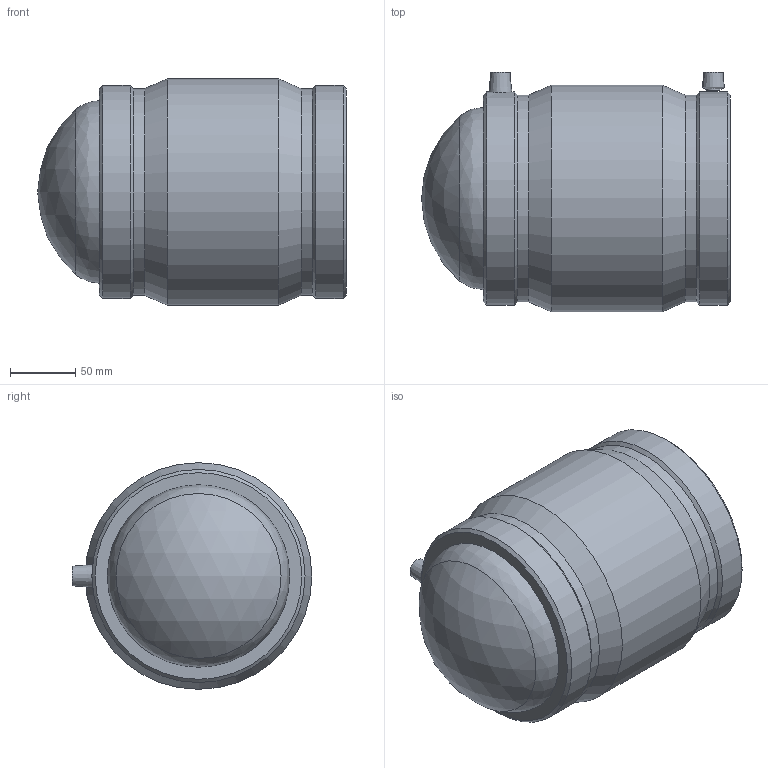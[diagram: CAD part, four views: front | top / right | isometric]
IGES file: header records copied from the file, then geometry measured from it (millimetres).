
Global section: file name: 491204140.ipt; native system: Autodesk Inventor 2015; preprocessor: unknown; author: KIM; date: 20171106.093757; units: millimetre
Bounding box: 237 x 184 x 174 mm (x, y, z)
Volume: 2069914 mm3; surface area: 237872 mm2
Topology: 2 solids, 3 shells, 40 faces, 84 edges, 58 vertices
Faces by surface type: plane 12, revolution 11, cylinder 8, cone 8, sphere 1
Full cylindrical faces by diameter (mm): 4 x2, 140 x1, 158.653 x2, 163.56 x2, 174 x1
